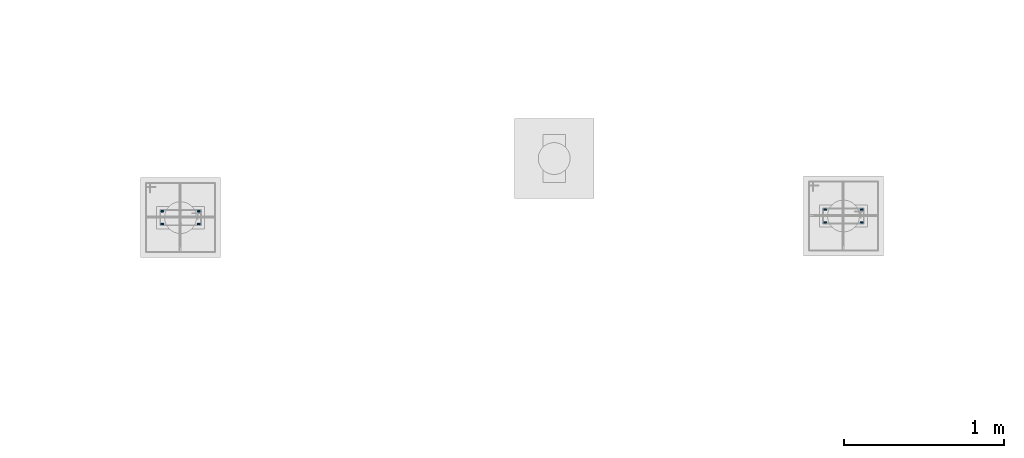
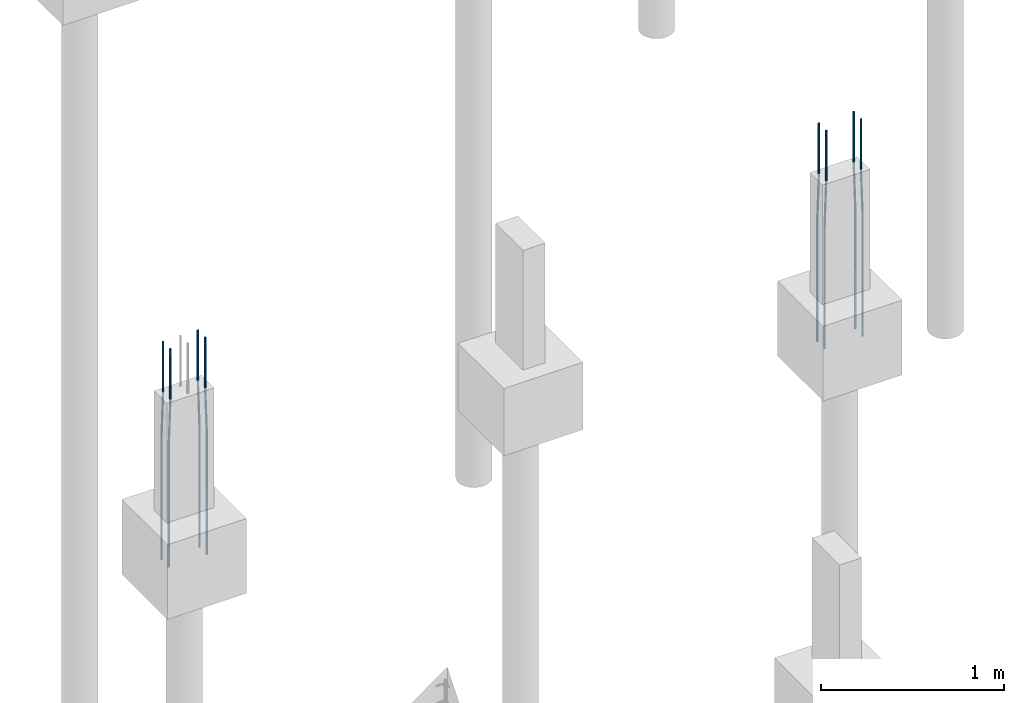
# One storey, part 9 of 119: 8 reinforcing bars.
"""IFC4 building model written with IfcOpenShell, lengths in centimetres."""

import ifcopenshell
import ifcopenshell.guid

model = None  # the IFC model being written
_history = None  # IfcOwnerHistory: only IFC2X3 demands one
_inside = {}  # id of a spatial element -> (the spatial element, [elements in it])
_under = {}  # id of a project, library or spatial element -> (it, [spatial elements below it])
_declared = {}  # id of a project -> (the project, [libraries it declares])
_typed = {}  # id of a type object -> (the type object, [elements of that type])
_made_of = {}  # id of a material, layer set ... -> (it, [elements and type objects made of it])


def new_model(schema):
    """Start an empty IFC model of exactly this schema.

    Asked for "IFC4X3", IfcOpenShell would pick the latest addendum, in which some entities
    have other attributes; the version numbers below select the first issue.
    IFC2X3 requires an IfcOwnerHistory on every rooted entity: one is made here for all.
    """
    global model, _history
    if schema == "IFC4X3":
        model = ifcopenshell.file(schema_version=(4, 3, 0, 0))
    else:
        model = ifcopenshell.file(schema=schema)
    _inside.clear()
    _under.clear()
    _declared.clear()
    _typed.clear()
    _made_of.clear()
    _history = None
    if model.schema == "IFC2X3":
        org = make("IfcOrganization", Name="unknown")
        user = make(
            "IfcPersonAndOrganization",
            ThePerson=make("IfcPerson", FamilyName="unknown"),
            TheOrganization=org,
        )
        app = make(
            "IfcApplication",
            ApplicationDeveloper=org,
            Version="unknown",
            ApplicationFullName="unknown",
            ApplicationIdentifier="unknown",
        )
        _history = make(
            "IfcOwnerHistory",
            OwningUser=user,
            OwningApplication=app,
            ChangeAction="ADDED",
            CreationDate=0,
        )
    return model


def make(cls, **values):
    """One entity of the class cls with the attributes given. An attribute that is None is left unset."""
    return model.create_entity(
        cls, **{name: value for name, value in values.items() if value is not None}
    )


def entity(cls, *values):
    """Any entity or typed value of the class cls, its attributes in the order of the schema. None: left unset."""
    e = model.create_entity(cls)
    for i, value in enumerate(values):
        if value is not None:
            e[i] = value
    return e


def rooted(cls, **values):
    """An entity with a GlobalId (a new one), such as an element, a storey or a relation."""
    return make(cls, GlobalId=ifcopenshell.guid.new(), OwnerHistory=_history, **values)


def si_unit(unit_type, name, prefix=None):
    """IfcSIUnit, for example si_unit("LENGTHUNIT", "METRE", prefix="MILLI")."""
    return make("IfcSIUnit", UnitType=unit_type, Prefix=prefix, Name=name)


def derived_unit(unit_type, elements):
    """IfcDerivedUnit: a product of units, each with its exponent."""
    return make(
        "IfcDerivedUnit",
        Elements=[
            make("IfcDerivedUnitElement", Unit=unit, Exponent=power)
            for unit, power in elements
        ],
        UnitType=unit_type,
    )


def assignment(units):
    """IfcUnitAssignment: the units of a project."""
    return None if units is None else make("IfcUnitAssignment", Units=units)


def point(xyz):
    """IfcCartesianPoint."""
    return None if xyz is None else make("IfcCartesianPoint", Coordinates=xyz)


def direction(xyz):
    """IfcDirection."""
    return None if xyz is None else make("IfcDirection", DirectionRatios=xyz)


def frame(location, z_axis=None, x_axis=None):
    """IfcAxis2Placement3D, a coordinate frame: its origin and axes. An axis left out is left unset."""
    return make(
        "IfcAxis2Placement3D",
        Location=point(location),
        Axis=direction(z_axis),
        RefDirection=direction(x_axis),
    )


def origin_with_axes():
    """The frame at (0, 0, 0) with the z axis (0, 0, 1) and the x axis (1, 0, 0) written out."""
    return frame((0.0, 0.0, 0.0), z_axis=(0.0, 0.0, 1.0), x_axis=(1.0, 0.0, 0.0))


def place(relative_to, where):
    """IfcLocalPlacement: puts the frame where relative to a parent placement (None: the world)."""
    return make(
        "IfcLocalPlacement", PlacementRelTo=relative_to, RelativePlacement=where
    )


def context(
    kind, dimensions, precision=None, world=None, true_north=None, identifier=None
):
    """IfcGeometricRepresentationContext, for example the 3D "Model" context."""
    return make(
        "IfcGeometricRepresentationContext",
        ContextIdentifier=identifier,
        ContextType=kind,
        CoordinateSpaceDimension=dimensions,
        Precision=precision,
        WorldCoordinateSystem=world,
        TrueNorth=true_north,
    )


def project(units=None, contexts=None):
    """IfcProject with its units and contexts."""
    return rooted(
        "IfcProject",
        Name="project",
        RepresentationContexts=contexts,
        UnitsInContext=assignment(units),
    )


def spatial(cls, under=None, at=None, **own):
    """A site, building, storey or space (cls), placed at a placement, below another one or the project."""
    s = rooted(cls, ObjectPlacement=at, **own)
    if under is not None:
        _under.setdefault(under.id(), (under, []))[1].append(s)
    return s


def shape(context_of_items, identifier, shape_type, items):
    """IfcShapeRepresentation: the items that make up one representation, for example the "Body"."""
    return make(
        "IfcShapeRepresentation",
        ContextOfItems=context_of_items,
        RepresentationIdentifier=identifier,
        RepresentationType=shape_type,
        Items=items,
    )


def made_of(thing, what):
    """Note that an element or type object is made of a material, layer set ...; save() writes the relation."""
    if what is not None:
        _made_of.setdefault(what.id(), (what, []))[1].append(thing)
    return thing


def element(
    cls,
    number,
    at=None,
    inside=None,
    cuts=None,
    type_object=None,
    material=None,
    context=None,
    identifier="Body",
    shape_type=None,
    held_by="IfcProductDefinitionShape",
    body=None,
    shapes=None,
    **own,
):
    """One element of the class cls, such as IfcWall. Its Tag is "e" and its number.

    at: its placement. inside: the storey or other place that contains it. cuts: it is an
    opening in that element (IfcRelVoidsElement). A single representation is given by context,
    identifier, shape_type and body (its items); several are given by shapes. held_by: the class
    of the entity that holds the representations. save() writes the other relations.
    """
    e = rooted(cls, Tag="e%d" % number, ObjectPlacement=at, **own)
    if body is not None:
        shapes = [shape(context, identifier, shape_type, body)]
    if shapes is not None:
        e.Representation = make(held_by, Representations=shapes)
    if inside is not None:
        _inside.setdefault(inside.id(), (inside, []))[1].append(e)
    if cuts is not None:
        rooted(
            "IfcRelVoidsElement", RelatingBuildingElement=cuts, RelatedOpeningElement=e
        )
    if type_object is not None:
        _typed.setdefault(type_object.id(), (type_object, []))[1].append(e)
    return made_of(e, material)


def aggregate(whole, parts):
    """IfcRelAggregates: a whole, such as a stair, and the parts it consists of."""
    return rooted("IfcRelAggregates", RelatingObject=whole, RelatedObjects=parts)


def save(model, path):
    """Write the relations noted so far, then the file.

    IfcRelAggregates (storeys below a building ...), IfcRelContainedInSpatialStructure (elements
    in a storey), IfcRelDefinesByType, IfcRelAssociatesMaterial and IfcRelDeclares: one each for
    every whole, place, type object, material and project.
    """
    for whole, parts in _under.values():
        aggregate(whole, parts)
    for where, things in _inside.values():
        rooted(
            "IfcRelContainedInSpatialStructure",
            RelatedElements=things,
            RelatingStructure=where,
        )
    for kind, things in _typed.values():
        rooted("IfcRelDefinesByType", RelatedObjects=things, RelatingType=kind)
    for what, things in _made_of.values():
        rooted("IfcRelAssociatesMaterial", RelatedObjects=things, RelatingMaterial=what)
    for by, libraries in _declared.values():
        rooted("IfcRelDeclares", RelatingContext=by, RelatedDefinitions=libraries)
    model.write(path)


model = new_model("IFC4")

# Units and contexts
model_context = context("Model", 3, precision=1e-05, world=origin_with_axes(), identifier="Body")
ifc_project = project(units=[si_unit("LENGTHUNIT", "METRE", prefix="CENTI"), si_unit("VOLUMEUNIT", "CUBIC_METRE"), si_unit("AREAUNIT", "SQUARE_METRE"), si_unit("POWERUNIT", "WATT"), si_unit("LUMINOUSFLUXUNIT", "LUMEN"), si_unit("ELECTRICCURRENTUNIT", "AMPERE"), si_unit("PRESSUREUNIT", "PASCAL", prefix="KILO"), si_unit("MASSUNIT", "GRAM", prefix="KILO"), si_unit("PLANEANGLEUNIT", "RADIAN"), derived_unit("VOLUMETRICFLOWRATEUNIT", [(si_unit("LENGTHUNIT", "METRE"), 3), (si_unit("TIMEUNIT", "SECOND"), -1)])], contexts=[model_context])

# Site, building, storey
site_placement = place(None, frame((-4000.0, 0.0, 0.0), z_axis=(0.0, 0.0, 1.0), x_axis=(1.0, 0.0, 0.0)))
site = spatial("IfcSite", under=ifc_project, at=site_placement, Name="PADRÃO")
building_placement = place(site_placement, frame((0.0, 0.0, -14.0)))
building = spatial("IfcBuilding", under=site, at=building_placement, Name="CRECHE PRÉ-ESCOLA TIPO 2")
storey_placement = place(building_placement, origin_with_axes())
storey = spatial("IfcBuildingStorey", under=building, at=storey_placement, Name="FUNDAÇÃO", CompositionType="ELEMENT", Elevation=-14.0)

# Reinforcing bars
for number, where, z_axis, x_axis, name in (
    (1, (258.0, 1305.5, 33.3573001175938), (0.0, 0.0, 1.0), (1.0, 0.0, 0.0), "P106 - Longitudinal"),
    (2, (258.0, 1297.5, 33.3573001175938), (0.0, 0.0, 1.0), (1.0, 0.0, 0.0), "P106 - Longitudinal"),
):
    element("IfcReinforcingBar", number, at=place(storey_placement, frame(where, z_axis=z_axis, x_axis=x_axis)), inside=storey, Name=name, BarLength=0.0, CrossSectionArea=7.853981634e-05, NominalDiameter=1.0, PredefinedType="MAIN", context=model_context, shape_type="AdvancedSweptSolid", body=[
        entity("IfcSweptDiskSolid", entity("IfcCompositeCurve", [entity("IfcCompositeCurveSegment", "CONTINUOUS", True, entity("IfcPolyline", [entity("IfcCartesianPoint", [-0.5, 0.0, -145.357300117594]), entity("IfcCartesianPoint", [-0.5, 0.0, -63.3573001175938])])), entity("IfcCompositeCurveSegment", "CONTINUOUS", True, entity("IfcPolyline", [entity("IfcCartesianPoint", [-0.5, 0.0, -63.3573001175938]), entity("IfcCartesianPoint", [0.5, 0.0, -33.3573001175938])])), entity("IfcCompositeCurveSegment", "CONTINUOUS", True, entity("IfcPolyline", [entity("IfcCartesianPoint", [0.5, 0.0, -33.3573001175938]), entity("IfcCartesianPoint", [0.5, 0.0, 0.0])]))], False), 0.5),
    ])
for number, where, z_axis, x_axis, name in (
    (3, (281.0, 1297.5, 33.3573001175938), (0.0, 0.0, 1.0), (1.0, 0.0, 0.0), "P106 - Longitudinal"),
    (4, (281.0, 1305.5, 33.3573001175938), (0.0, 0.0, 1.0), (1.0, 0.0, 0.0), "P106 - Longitudinal"),
    (5, (696.5, 1298.5, 33.3573001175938), (0.0, 0.0, 1.0), (1.0, 0.0, 0.0), "P108 - Longitudinal"),
    (6, (696.5, 1306.5, 33.3573001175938), (0.0, 0.0, 1.0), (1.0, 0.0, 0.0), "P108 - Longitudinal"),
):
    element("IfcReinforcingBar", number, at=place(storey_placement, frame(where, z_axis=z_axis, x_axis=x_axis)), inside=storey, Name=name, BarLength=0.0, CrossSectionArea=7.853981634e-05, NominalDiameter=1.0, PredefinedType="MAIN", context=model_context, shape_type="AdvancedSweptSolid", body=[
        entity("IfcSweptDiskSolid", entity("IfcCompositeCurve", [entity("IfcCompositeCurveSegment", "CONTINUOUS", True, entity("IfcPolyline", [entity("IfcCartesianPoint", [0.5, 0.0, -145.357300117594]), entity("IfcCartesianPoint", [0.5, 0.0, -63.3573001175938])])), entity("IfcCompositeCurveSegment", "CONTINUOUS", True, entity("IfcPolyline", [entity("IfcCartesianPoint", [0.5, 0.0, -63.3573001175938]), entity("IfcCartesianPoint", [-0.5, 0.0, -33.3573001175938])])), entity("IfcCompositeCurveSegment", "CONTINUOUS", True, entity("IfcPolyline", [entity("IfcCartesianPoint", [-0.5, 0.0, -33.3573001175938]), entity("IfcCartesianPoint", [-0.5, 0.0, 0.0])]))], False), 0.5),
    ])
for number, where, z_axis, x_axis, name in (
    (7, (673.5, 1306.5, 33.3573001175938), (0.0, 0.0, 1.0), (1.0, 0.0, 0.0), "P108 - Longitudinal"),
    (8, (673.5, 1298.5, 33.3573001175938), (0.0, 0.0, 1.0), (1.0, 0.0, 0.0), "P108 - Longitudinal"),
):
    element("IfcReinforcingBar", number, at=place(storey_placement, frame(where, z_axis=z_axis, x_axis=x_axis)), inside=storey, Name=name, BarLength=0.0, CrossSectionArea=7.853981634e-05, NominalDiameter=1.0, PredefinedType="MAIN", context=model_context, shape_type="AdvancedSweptSolid", body=[
        entity("IfcSweptDiskSolid", entity("IfcCompositeCurve", [entity("IfcCompositeCurveSegment", "CONTINUOUS", True, entity("IfcPolyline", [entity("IfcCartesianPoint", [-0.5, 0.0, -145.357300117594]), entity("IfcCartesianPoint", [-0.5, 0.0, -63.3573001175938])])), entity("IfcCompositeCurveSegment", "CONTINUOUS", True, entity("IfcPolyline", [entity("IfcCartesianPoint", [-0.5, 0.0, -63.3573001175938]), entity("IfcCartesianPoint", [0.5, 0.0, -33.3573001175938])])), entity("IfcCompositeCurveSegment", "CONTINUOUS", True, entity("IfcPolyline", [entity("IfcCartesianPoint", [0.5, 0.0, -33.3573001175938]), entity("IfcCartesianPoint", [0.5, 0.0, 0.0])]))], False), 0.5),
    ])

save(model, "model.ifc")
